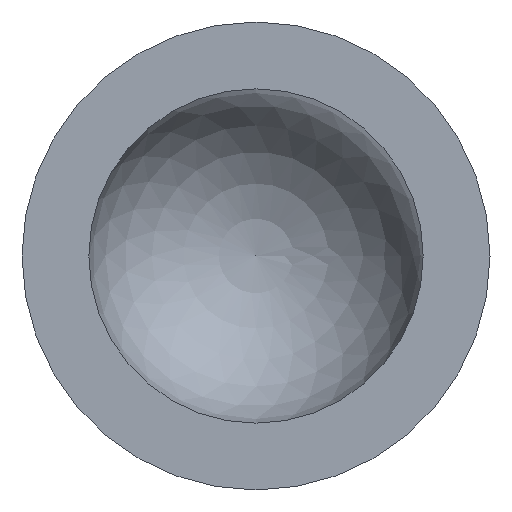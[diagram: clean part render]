
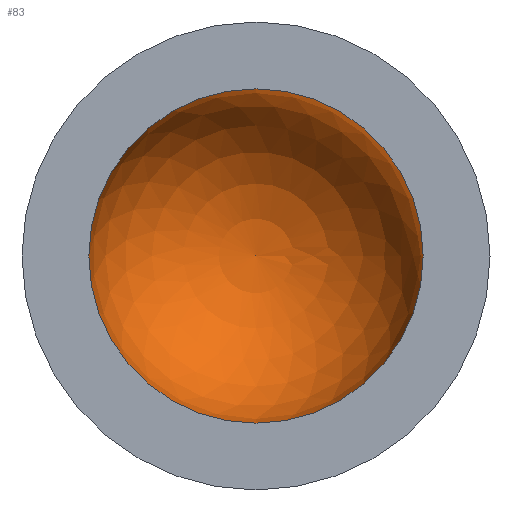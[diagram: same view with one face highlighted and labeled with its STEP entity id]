
A CAD part, left-side view. The second image highlights one B-rep face of the part: STEP entity #83.
In plain terms, the highlighted spherical face has radius 3.175 mm.
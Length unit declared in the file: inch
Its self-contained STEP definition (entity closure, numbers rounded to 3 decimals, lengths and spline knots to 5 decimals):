
#24=FACE_OUTER_BOUND('',#29,.T.);
#29=EDGE_LOOP('',(#64,#65,#66,#67));
#37=CIRCLE('',#114,0.125);
#38=CIRCLE('',#115,0.125);
#39=CIRCLE('',#116,0.125);
#45=VERTEX_POINT('',#161);
#46=VERTEX_POINT('',#162);
#47=VERTEX_POINT('',#164);
#53=EDGE_CURVE('',#45,#46,#37,.T.);
#54=EDGE_CURVE('',#47,#45,#38,.T.);
#55=EDGE_CURVE('',#46,#45,#39,.T.);
#64=ORIENTED_EDGE('',*,*,#53,.F.);
#65=ORIENTED_EDGE('',*,*,#54,.F.);
#66=ORIENTED_EDGE('',*,*,#54,.T.);
#67=ORIENTED_EDGE('',*,*,#55,.F.);
#81=SPHERICAL_SURFACE('',#113,0.125);
#83=ADVANCED_FACE('',(#24),#81,.F.);
#113=AXIS2_PLACEMENT_3D('',#160,#132,#133);
#114=AXIS2_PLACEMENT_3D('',#163,#134,#135);
#115=AXIS2_PLACEMENT_3D('',#165,#136,#137);
#116=AXIS2_PLACEMENT_3D('',#166,#138,#139);
#132=DIRECTION('center_axis',(1.,0.,0.));
#133=DIRECTION('ref_axis',(0.,1.,0.));
#134=DIRECTION('center_axis',(1.,0.,0.));
#135=DIRECTION('ref_axis',(0.,0.,1.));
#136=DIRECTION('center_axis',(0.,0.,
-1.));
#137=DIRECTION('ref_axis',(0.,-1.,0.));
#138=DIRECTION('center_axis',(1.,0.,0.));
#139=DIRECTION('ref_axis',(0.,0.,1.));
#160=CARTESIAN_POINT('Origin',(2.34753,0.8289,1.));
#161=CARTESIAN_POINT('',(2.34753,0.7039,1.));
#162=CARTESIAN_POINT('',(2.34753,0.8289,1.125));
#163=CARTESIAN_POINT('Origin',(2.34753,0.8289,1.));
#164=CARTESIAN_POINT('',(2.47253,0.8289,1.));
#165=CARTESIAN_POINT('Origin',(2.34753,0.8289,1.));
#166=CARTESIAN_POINT('Origin',(2.34753,0.8289,1.));
